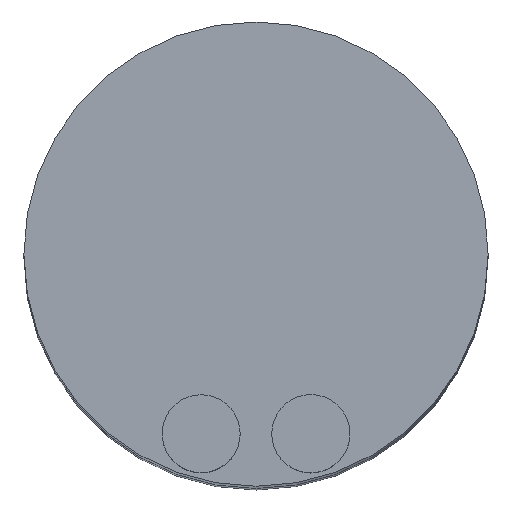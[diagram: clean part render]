
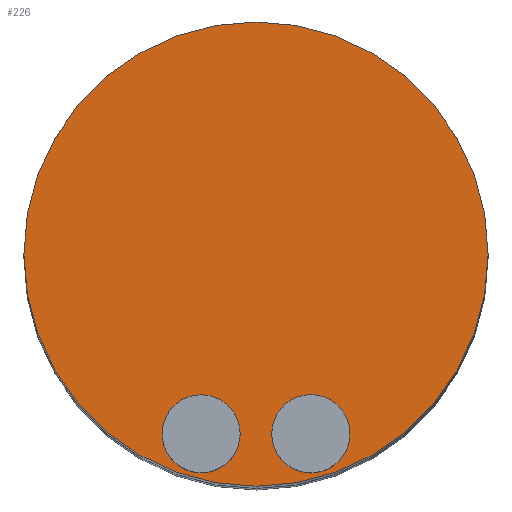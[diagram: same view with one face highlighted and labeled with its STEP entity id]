
A CAD part, top view. The second image highlights one B-rep face of the part: STEP entity #226.
In plain terms, the highlighted planar face has unit normal (0, 0, 1).
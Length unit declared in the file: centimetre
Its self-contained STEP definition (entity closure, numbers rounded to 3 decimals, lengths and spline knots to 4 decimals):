
#142=VERTEX_POINT('',#706);
#144=VERTEX_POINT('',#712);
#145=VERTEX_POINT('',#716);
#152=EDGE_CURVE('',#142,#142,#395,.T.);
#154=EDGE_CURVE('',#144,#144,#397,.T.);
#155=EDGE_CURVE('',#145,#145,#398,.T.);
#171=ORIENTED_EDGE('',*,*,#155,.F.);
#172=ORIENTED_EDGE('',*,*,#154,.T.);
#173=ORIENTED_EDGE('',*,*,#152,.T.);
#191=EDGE_LOOP('',(#171));
#192=EDGE_LOOP('',(#172));
#193=EDGE_LOOP('',(#173));
#211=FACE_BOUND('',#191,.T.);
#212=FACE_BOUND('',#192,.T.);
#213=FACE_BOUND('',#193,.T.);
#226=ADVANCED_FACE('',(#211,#212,#213),#518,.T.);
#395=CIRCLE('',#483,0.0535);
#397=CIRCLE('',#487,0.0533);
#398=CIRCLE('',#490,0.3175);
#483=AXIS2_PLACEMENT_3D('',#705,#621,#622);
#487=AXIS2_PLACEMENT_3D('',#711,#628,#629);
#489=AXIS2_PLACEMENT_3D('',#714,#631,$);
#490=AXIS2_PLACEMENT_3D('',#715,#632,#633);
#518=PLANE('',#489);
#621=DIRECTION('',(0.,0.,-1.));
#622=DIRECTION('',(0.053,0.,0.));
#628=DIRECTION('',(0.,0.,-1.));
#629=DIRECTION('',(0.053,0.,0.));
#631=DIRECTION('',(0.,0.,1.));
#632=DIRECTION('',(0.,0.,-1.));
#633=DIRECTION('',(0.318,0.,0.));
#705=CARTESIAN_POINT('',(0.075,-0.246,2.95));
#706=CARTESIAN_POINT('',(0.1285,-0.246,2.95));
#711=CARTESIAN_POINT('',(-0.075,-0.246,2.95));
#712=CARTESIAN_POINT('',(-0.0217,-0.246,2.95));
#714=CARTESIAN_POINT('',(0.,0.,2.95));
#715=CARTESIAN_POINT('',(0.,0.,2.95));
#716=CARTESIAN_POINT('',(0.3175,0.,2.95));
